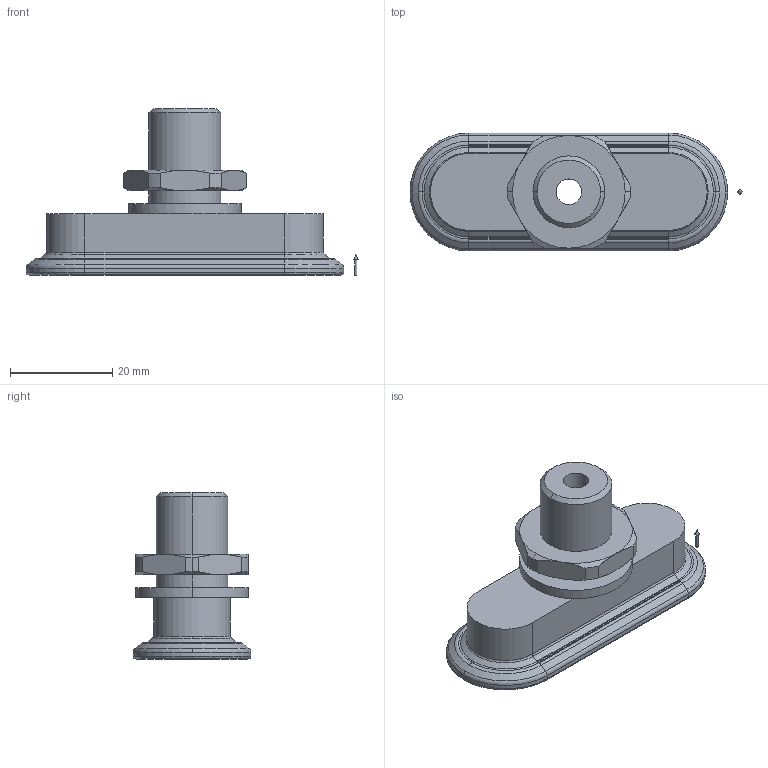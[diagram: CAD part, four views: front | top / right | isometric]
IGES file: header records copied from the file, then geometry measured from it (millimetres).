
Start section: 3D InterOp IGES (v. 2018 1.0.2), Spatial Corp. Copyright (c) 1999-2017.
Global section: file name: schmalz_10_01_05_00385_7d6rknivq7gczi2k59t7nhk6d.igs; native system: Spatial Corp.; preprocessor: 3D InterOp ACIS/IGES; author: TraceParts; organization: TraceParts S.A.; date: 20181030.050332; units: millimetre
Bounding box: 64.8 x 23 x 32.5 mm (x, y, z)
Surface area: 6343.6 mm2 (no closed solid volume)
Topology: 0 solids, 0 shells, 175 faces, 790 edges, 788 vertices
Faces by surface type: revolution 122, extrusion 53
